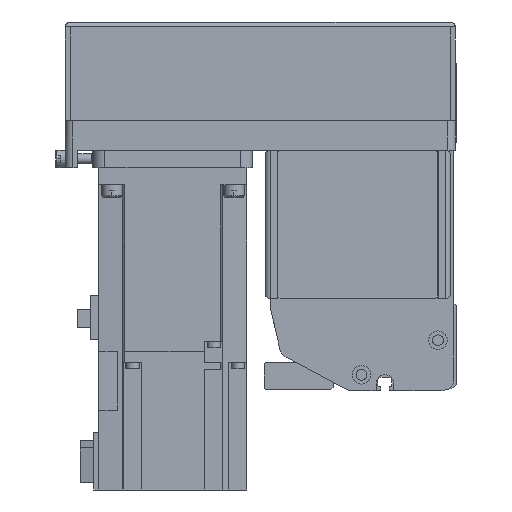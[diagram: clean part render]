
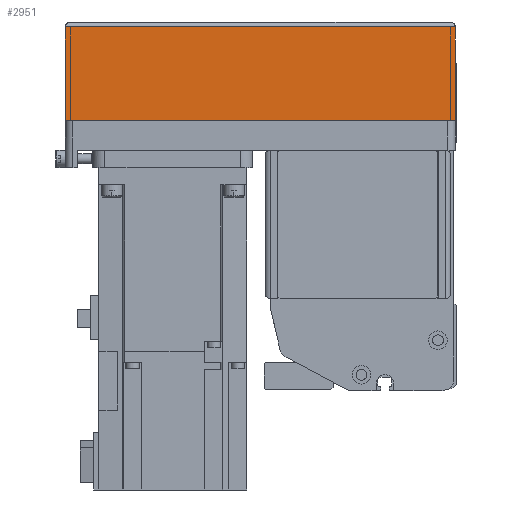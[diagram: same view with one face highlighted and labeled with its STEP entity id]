
A CAD part, left-side view. The second image highlights one B-rep face of the part: STEP entity #2951.
In plain terms, the highlighted planar face has unit normal (-1, 0, 0) as drawn and (0, 1, 0) by its records, which use the part's own axes.
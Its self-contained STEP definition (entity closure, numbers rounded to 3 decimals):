
#2951 = ADVANCED_FACE( '', ( #6040 ), #6041, .T. );
#6040 = FACE_OUTER_BOUND( '', #9099, .T. );
#6041 = PLANE( '', #9100 );
#9099 = EDGE_LOOP( '', ( #17365, #17366, #17367, #17368 ) );
#9100 = AXIS2_PLACEMENT_3D( '', #17369, #17370, #17371 );
#17365 = ORIENTED_EDGE( '', *, *, #19035, .F. );
#17366 = ORIENTED_EDGE( '', *, *, #19997, .F. );
#17367 = ORIENTED_EDGE( '', *, *, #17563, .T. );
#17368 = ORIENTED_EDGE( '', *, *, #17723, .T. );
#17369 = CARTESIAN_POINT( '', ( -158., 39., -50. ) );
#17370 = DIRECTION( '', ( 0., 1., 0. ) );
#17371 = DIRECTION( '', ( 0., 0., 1. ) );
#17563 = EDGE_CURVE( '', #20865, #20862, #20866, .T. );
#17723 = EDGE_CURVE( '', #20862, #21150, #21152, .T. );
#19035 = EDGE_CURVE( '', #23349, #21150, #23350, .T. );
#19997 = EDGE_CURVE( '', #20865, #23349, #24709, .T. );
#20862 = VERTEX_POINT( '', #25719 );
#20865 = VERTEX_POINT( '', #25723 );
#20866 = LINE( '', #25724, #25725 );
#21150 = VERTEX_POINT( '', #26172 );
#21152 = LINE( '', #26175, #26176 );
#23349 = VERTEX_POINT( '', #29348 );
#23350 = LINE( '', #29349, #29350 );
#24709 = LINE( '', #31282, #31283 );
#25719 = CARTESIAN_POINT( '', ( -158., 39., -12.1 ) );
#25723 = CARTESIAN_POINT( '', ( -158., 39., -50. ) );
#25724 = CARTESIAN_POINT( '', ( -158., 39., -50. ) );
#25725 = VECTOR( '', #32591, 1000. );
#26172 = CARTESIAN_POINT( '', ( 0., 39., -12.1 ) );
#26175 = CARTESIAN_POINT( '', ( -158., 39., -12.1 ) );
#26176 = VECTOR( '', #32769, 1000. );
#29348 = CARTESIAN_POINT( '', ( 0., 39., -50. ) );
#29349 = CARTESIAN_POINT( '', ( 0., 39., -50. ) );
#29350 = VECTOR( '', #34449, 1000. );
#31282 = CARTESIAN_POINT( '', ( -158., 39., -50. ) );
#31283 = VECTOR( '', #35565, 1000. );
#32591 = DIRECTION( '', ( 0., 0., 1. ) );
#32769 = DIRECTION( '', ( 1., 0., 0. ) );
#34449 = DIRECTION( '', ( 0., 0., 1. ) );
#35565 = DIRECTION( '', ( 1., 0., 0. ) );
